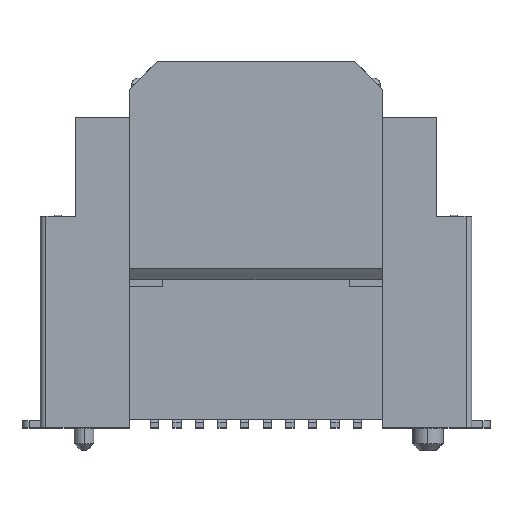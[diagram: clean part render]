
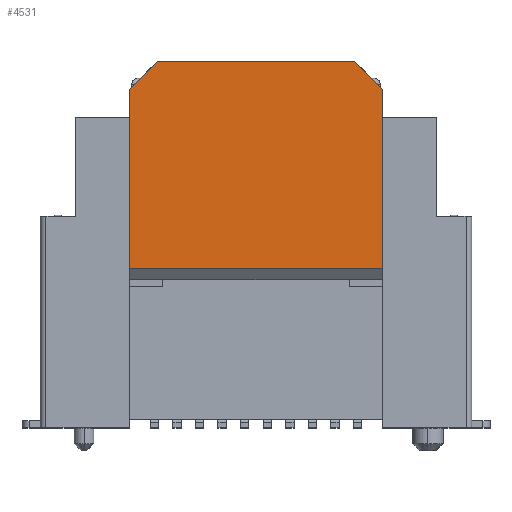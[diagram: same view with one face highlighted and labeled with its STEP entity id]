
A CAD part, top view. The second image highlights one B-rep face of the part: STEP entity #4531.
In plain terms, the highlighted planar face has unit normal (0, 0, 1).
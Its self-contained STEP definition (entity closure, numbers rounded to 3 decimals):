
#192 = DIRECTION ( 'NONE',  ( 0., 1., 0. ) ) ;
#550 = CARTESIAN_POINT ( 'NONE',  ( 4.5, 12., 2.9 ) ) ;
#902 = EDGE_CURVE ( 'NONE', #14329, #7488, #9380, .T. ) ;
#1035 = CARTESIAN_POINT ( 'NONE',  ( -4.5, 12., 2.9 ) ) ;
#1161 = LINE ( 'NONE', #5915, #14423 ) ;
#1217 = ORIENTED_EDGE ( 'NONE', *, *, #12928, .T. ) ;
#1235 = CARTESIAN_POINT ( 'NONE',  ( -3.5, 13., 2.9 ) ) ;
#1423 = CARTESIAN_POINT ( 'NONE',  ( -5.724, 5.67, 2.9 ) ) ;
#1671 = FACE_OUTER_BOUND ( 'NONE', #8910, .T. ) ;
#1857 = VECTOR ( 'NONE', #6684, 1000. ) ;
#2005 = CARTESIAN_POINT ( 'NONE',  ( 4.5, 5.67, 2.9 ) ) ;
#2446 = PLANE ( 'NONE',  #6379 ) ;
#2484 = CARTESIAN_POINT ( 'NONE',  ( 4.5, 11., 2.9 ) ) ;
#2581 = ORIENTED_EDGE ( 'NONE', *, *, #3205, .T. ) ;
#3076 = ORIENTED_EDGE ( 'NONE', *, *, #12468, .T. ) ;
#3205 = EDGE_CURVE ( 'NONE', #8306, #3585, #12630, .T. ) ;
#3286 = LINE ( 'NONE', #1235, #10555 ) ;
#3439 = CARTESIAN_POINT ( 'NONE',  ( 4.5, 4.2, 2.9 ) ) ;
#3585 = VERTEX_POINT ( 'NONE', #11449 ) ;
#3670 = CARTESIAN_POINT ( 'NONE',  ( 4.5, 4.2, 2.9 ) ) ;
#3944 = DIRECTION ( 'NONE',  ( -1., 0., 0. ) ) ;
#4048 = VERTEX_POINT ( 'NONE', #11333 ) ;
#4255 = ORIENTED_EDGE ( 'NONE', *, *, #6932, .F. ) ;
#4531 = ADVANCED_FACE ( 'NONE', ( #1671 ), #2446, .F. ) ;
#4907 = VECTOR ( 'NONE', #192, 1000. ) ;
#5411 = CARTESIAN_POINT ( 'NONE',  ( -4.5, 4.2, 2.9 ) ) ;
#5915 = CARTESIAN_POINT ( 'NONE',  ( 4.5, 12., 2.9 ) ) ;
#5985 = VERTEX_POINT ( 'NONE', #1035 ) ;
#5991 = VECTOR ( 'NONE', #9307, 1000. ) ;
#6379 = AXIS2_PLACEMENT_3D ( 'NONE', #7939, #13655, #9241 ) ;
#6443 = ORIENTED_EDGE ( 'NONE', *, *, #13623, .T. ) ;
#6566 = EDGE_CURVE ( 'NONE', #4048, #5985, #8944, .T. ) ;
#6684 = DIRECTION ( 'NONE',  ( 0., 1., 0. ) ) ;
#6932 = EDGE_CURVE ( 'NONE', #12344, #4048, #9288, .T. ) ;
#7134 = DIRECTION ( 'NONE',  ( -0.707, -0.707, 0. ) ) ;
#7435 = VECTOR ( 'NONE', #10353, 1000. ) ;
#7488 = VERTEX_POINT ( 'NONE', #2484 ) ;
#7626 = DIRECTION ( 'NONE',  ( 0., 1., 0. ) ) ;
#7939 = CARTESIAN_POINT ( 'NONE',  ( -4.5, 4.2, 2.9 ) ) ;
#8306 = VERTEX_POINT ( 'NONE', #11539 ) ;
#8910 = EDGE_LOOP ( 'NONE', ( #1217, #6443, #2581, #12813, #13572, #4255, #3076, #13266 ) ) ;
#8944 = LINE ( 'NONE', #12491, #1857 ) ;
#9088 = VERTEX_POINT ( 'NONE', #550 ) ;
#9241 = DIRECTION ( 'NONE',  ( -1., 0., 0. ) ) ;
#9288 = LINE ( 'NONE', #5411, #13485 ) ;
#9307 = DIRECTION ( 'NONE',  ( 1., 0., 0. ) ) ;
#9380 = LINE ( 'NONE', #3670, #7435 ) ;
#10035 = LINE ( 'NONE', #3439, #4907 ) ;
#10072 = CARTESIAN_POINT ( 'NONE',  ( -4.5, 5.67, 2.9 ) ) ;
#10353 = DIRECTION ( 'NONE',  ( 0., 1., 0. ) ) ;
#10555 = VECTOR ( 'NONE', #7134, 1000. ) ;
#10728 = VECTOR ( 'NONE', #3944, 1000. ) ;
#11333 = CARTESIAN_POINT ( 'NONE',  ( -4.5, 11., 2.9 ) ) ;
#11449 = CARTESIAN_POINT ( 'NONE',  ( -3.5, 13., 2.9 ) ) ;
#11539 = CARTESIAN_POINT ( 'NONE',  ( 3.5, 13., 2.9 ) ) ;
#11913 = EDGE_CURVE ( 'NONE', #3585, #5985, #3286, .T. ) ;
#12344 = VERTEX_POINT ( 'NONE', #10072 ) ;
#12468 = EDGE_CURVE ( 'NONE', #12344, #14329, #13119, .T. ) ;
#12491 = CARTESIAN_POINT ( 'NONE',  ( -4.5, 4.2, 2.9 ) ) ;
#12601 = DIRECTION ( 'NONE',  ( -0.707, 0.707, 0. ) ) ;
#12630 = LINE ( 'NONE', #14063, #10728 ) ;
#12813 = ORIENTED_EDGE ( 'NONE', *, *, #11913, .T. ) ;
#12928 = EDGE_CURVE ( 'NONE', #7488, #9088, #10035, .T. ) ;
#13119 = LINE ( 'NONE', #1423, #5991 ) ;
#13266 = ORIENTED_EDGE ( 'NONE', *, *, #902, .T. ) ;
#13485 = VECTOR ( 'NONE', #7626, 1000. ) ;
#13572 = ORIENTED_EDGE ( 'NONE', *, *, #6566, .F. ) ;
#13623 = EDGE_CURVE ( 'NONE', #9088, #8306, #1161, .T. ) ;
#13655 = DIRECTION ( 'NONE',  ( 0., 0., -1. ) ) ;
#14063 = CARTESIAN_POINT ( 'NONE',  ( -4.5, 13., 2.9 ) ) ;
#14329 = VERTEX_POINT ( 'NONE', #2005 ) ;
#14423 = VECTOR ( 'NONE', #12601, 1000. ) ;
